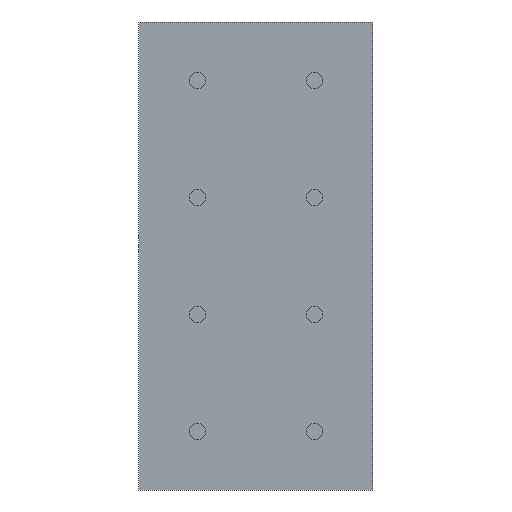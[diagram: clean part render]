
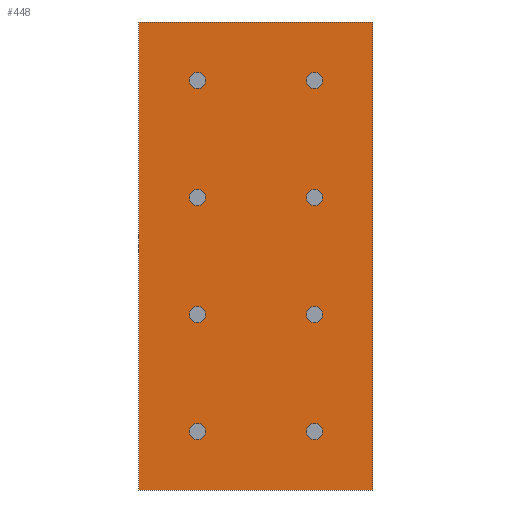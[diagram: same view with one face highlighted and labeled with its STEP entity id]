
A CAD part, front view. The second image highlights one B-rep face of the part: STEP entity #448.
In plain terms, the highlighted planar face has unit normal (0, -1, 0).
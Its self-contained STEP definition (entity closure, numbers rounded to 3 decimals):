
#1=CARTESIAN_POINT('',(22.5,0.,112.5));
#2=DIRECTION('',(0.,1.,0.));
#3=DIRECTION('',(-1.,0.,0.));
#4=AXIS2_PLACEMENT_3D('',#1,#2,#3);
#6=CARTESIAN_POINT('',(22.5,0.,112.5));
#7=DIRECTION('',(0.,1.,0.));
#8=DIRECTION('',(1.,0.,0.));
#9=AXIS2_PLACEMENT_3D('',#6,#7,#8);
#11=CARTESIAN_POINT('',(-22.5,0.,112.5));
#12=DIRECTION('',(0.,-1.,0.));
#13=DIRECTION('',(1.,0.,0.));
#14=AXIS2_PLACEMENT_3D('',#11,#12,#13);
#16=CARTESIAN_POINT('',(-22.5,0.,112.5));
#17=DIRECTION('',(0.,-1.,0.));
#18=DIRECTION('',(-1.,0.,0.));
#19=AXIS2_PLACEMENT_3D('',#16,#17,#18);
#21=CARTESIAN_POINT('',(-22.5,0.,67.5));
#22=DIRECTION('',(0.,1.,0.));
#23=DIRECTION('',(1.,0.,0.));
#24=AXIS2_PLACEMENT_3D('',#21,#22,#23);
#26=CARTESIAN_POINT('',(-22.5,0.,67.5));
#27=DIRECTION('',(0.,1.,0.));
#28=DIRECTION('',(-1.,0.,0.));
#29=AXIS2_PLACEMENT_3D('',#26,#27,#28);
#31=CARTESIAN_POINT('',(22.5,0.,67.5));
#32=DIRECTION('',(0.,-1.,0.));
#33=DIRECTION('',(-1.,0.,0.));
#34=AXIS2_PLACEMENT_3D('',#31,#32,#33);
#36=CARTESIAN_POINT('',(22.5,0.,67.5));
#37=DIRECTION('',(0.,-1.,0.));
#38=DIRECTION('',(1.,0.,0.));
#39=AXIS2_PLACEMENT_3D('',#36,#37,#38);
#41=CARTESIAN_POINT('',(22.5,0.,22.5));
#42=DIRECTION('',(0.,1.,0.));
#43=DIRECTION('',(-1.,0.,0.));
#44=AXIS2_PLACEMENT_3D('',#41,#42,#43);
#46=CARTESIAN_POINT('',(22.5,0.,22.5));
#47=DIRECTION('',(0.,1.,0.));
#48=DIRECTION('',(1.,0.,0.));
#49=AXIS2_PLACEMENT_3D('',#46,#47,#48);
#51=CARTESIAN_POINT('',(-22.5,0.,22.5));
#52=DIRECTION('',(0.,-1.,0.));
#53=DIRECTION('',(1.,0.,0.));
#54=AXIS2_PLACEMENT_3D('',#51,#52,#53);
#56=CARTESIAN_POINT('',(-22.5,0.,22.5));
#57=DIRECTION('',(0.,-1.,0.));
#58=DIRECTION('',(-1.,0.,0.));
#59=AXIS2_PLACEMENT_3D('',#56,#57,#58);
#61=CARTESIAN_POINT('',(-22.5,0.,-22.5));
#62=DIRECTION('',(0.,1.,0.));
#63=DIRECTION('',(1.,0.,0.));
#64=AXIS2_PLACEMENT_3D('',#61,#62,#63);
#66=CARTESIAN_POINT('',(-22.5,0.,-22.5));
#67=DIRECTION('',(0.,1.,0.));
#68=DIRECTION('',(-1.,0.,0.));
#69=AXIS2_PLACEMENT_3D('',#66,#67,#68);
#71=CARTESIAN_POINT('',(22.5,0.,-22.5));
#72=DIRECTION('',(0.,-1.,0.));
#73=DIRECTION('',(-1.,0.,0.));
#74=AXIS2_PLACEMENT_3D('',#71,#72,#73);
#76=CARTESIAN_POINT('',(22.5,0.,-22.5));
#77=DIRECTION('',(0.,-1.,0.));
#78=DIRECTION('',(1.,0.,0.));
#79=AXIS2_PLACEMENT_3D('',#76,#77,#78);
#229=DIRECTION('',(-1.,0.,0.));
#230=VECTOR('',#229,90.);
#231=CARTESIAN_POINT('',(45.,0.,135.));
#232=LINE('',#231,#230);
#249=DIRECTION('',(0.,0.,-1.));
#250=VECTOR('',#249,180.);
#251=CARTESIAN_POINT('',(-45.,0.,135.));
#252=LINE('',#251,#250);
#265=DIRECTION('',(1.,0.,0.));
#266=VECTOR('',#265,90.);
#267=CARTESIAN_POINT('',(-45.,0.,-45.));
#268=LINE('',#267,#266);
#289=DIRECTION('',(0.,0.,1.));
#290=VECTOR('',#289,180.);
#291=CARTESIAN_POINT('',(45.,0.,-45.));
#292=LINE('',#291,#290);
#309=CARTESIAN_POINT('',(19.4,0.,-22.5));
#310=CARTESIAN_POINT('',(25.6,0.,-22.5));
#311=VERTEX_POINT('',#309);
#312=VERTEX_POINT('',#310);
#317=CARTESIAN_POINT('',(-19.4,0.,-22.5));
#318=CARTESIAN_POINT('',(-25.6,0.,-22.5));
#319=VERTEX_POINT('',#317);
#320=VERTEX_POINT('',#318);
#325=CARTESIAN_POINT('',(19.4,0.,22.5));
#326=CARTESIAN_POINT('',(25.6,0.,22.5));
#327=VERTEX_POINT('',#325);
#328=VERTEX_POINT('',#326);
#333=CARTESIAN_POINT('',(-19.4,0.,22.5));
#334=CARTESIAN_POINT('',(-25.6,0.,22.5));
#335=VERTEX_POINT('',#333);
#336=VERTEX_POINT('',#334);
#341=CARTESIAN_POINT('',(19.4,0.,112.5));
#342=CARTESIAN_POINT('',(25.6,0.,112.5));
#343=VERTEX_POINT('',#341);
#344=VERTEX_POINT('',#342);
#349=CARTESIAN_POINT('',(-19.4,0.,112.5));
#350=CARTESIAN_POINT('',(-25.6,0.,112.5));
#351=VERTEX_POINT('',#349);
#352=VERTEX_POINT('',#350);
#357=CARTESIAN_POINT('',(19.4,0.,67.5));
#358=CARTESIAN_POINT('',(25.6,0.,67.5));
#359=VERTEX_POINT('',#357);
#360=VERTEX_POINT('',#358);
#365=CARTESIAN_POINT('',(-19.4,0.,67.5));
#366=CARTESIAN_POINT('',(-25.6,0.,67.5));
#367=VERTEX_POINT('',#365);
#368=VERTEX_POINT('',#366);
#373=CARTESIAN_POINT('',(45.,0.,135.));
#374=CARTESIAN_POINT('',(-45.,0.,135.));
#375=VERTEX_POINT('',#373);
#376=VERTEX_POINT('',#374);
#379=CARTESIAN_POINT('',(-45.,0.,-45.));
#380=VERTEX_POINT('',#379);
#381=CARTESIAN_POINT('',(45.,0.,-45.));
#382=VERTEX_POINT('',#381);
#385=CARTESIAN_POINT('',(0.,0.,0.));
#386=DIRECTION('',(0.,1.,0.));
#387=DIRECTION('',(1.,0.,0.));
#388=AXIS2_PLACEMENT_3D('',#385,#386,#387);
#389=PLANE('',#388);
#391=ORIENTED_EDGE('',*,*,#390,.F.);
#393=ORIENTED_EDGE('',*,*,#392,.F.);
#395=ORIENTED_EDGE('',*,*,#394,.F.);
#397=ORIENTED_EDGE('',*,*,#396,.F.);
#398=EDGE_LOOP('',(#391,#393,#395,#397));
#399=FACE_OUTER_BOUND('',#398,.F.);
#401=ORIENTED_EDGE('',*,*,#400,.F.);
#403=ORIENTED_EDGE('',*,*,#402,.F.);
#404=EDGE_LOOP('',(#401,#403));
#405=FACE_BOUND('',#404,.F.);
#407=ORIENTED_EDGE('',*,*,#406,.T.);
#409=ORIENTED_EDGE('',*,*,#408,.T.);
#410=EDGE_LOOP('',(#407,#409));
#411=FACE_BOUND('',#410,.F.);
#413=ORIENTED_EDGE('',*,*,#412,.F.);
#415=ORIENTED_EDGE('',*,*,#414,.F.);
#416=EDGE_LOOP('',(#413,#415));
#417=FACE_BOUND('',#416,.F.);
#419=ORIENTED_EDGE('',*,*,#418,.T.);
#421=ORIENTED_EDGE('',*,*,#420,.T.);
#422=EDGE_LOOP('',(#419,#421));
#423=FACE_BOUND('',#422,.F.);
#425=ORIENTED_EDGE('',*,*,#424,.F.);
#427=ORIENTED_EDGE('',*,*,#426,.F.);
#428=EDGE_LOOP('',(#425,#427));
#429=FACE_BOUND('',#428,.F.);
#431=ORIENTED_EDGE('',*,*,#430,.T.);
#433=ORIENTED_EDGE('',*,*,#432,.T.);
#434=EDGE_LOOP('',(#431,#433));
#435=FACE_BOUND('',#434,.F.);
#437=ORIENTED_EDGE('',*,*,#436,.F.);
#439=ORIENTED_EDGE('',*,*,#438,.F.);
#440=EDGE_LOOP('',(#437,#439));
#441=FACE_BOUND('',#440,.F.);
#443=ORIENTED_EDGE('',*,*,#442,.T.);
#445=ORIENTED_EDGE('',*,*,#444,.T.);
#446=EDGE_LOOP('',(#443,#445));
#447=FACE_BOUND('',#446,.F.);
#448=ADVANCED_FACE('',(#399,#405,#411,#417,#423,#429,#435,#441,#447),#389,.F.);
#5=CIRCLE('',#4,3.1);
#10=CIRCLE('',#9,3.1);
#15=CIRCLE('',#14,3.1);
#20=CIRCLE('',#19,3.1);
#25=CIRCLE('',#24,3.1);
#30=CIRCLE('',#29,3.1);
#35=CIRCLE('',#34,3.1);
#40=CIRCLE('',#39,3.1);
#45=CIRCLE('',#44,3.1);
#50=CIRCLE('',#49,3.1);
#55=CIRCLE('',#54,3.1);
#60=CIRCLE('',#59,3.1);
#65=CIRCLE('',#64,3.1);
#70=CIRCLE('',#69,3.1);
#75=CIRCLE('',#74,3.1);
#80=CIRCLE('',#79,3.1);
#390=EDGE_CURVE('',#375,#376,#232,.T.);
#392=EDGE_CURVE('',#382,#375,#292,.T.);
#394=EDGE_CURVE('',#380,#382,#268,.T.);
#396=EDGE_CURVE('',#376,#380,#252,.T.);
#400=EDGE_CURVE('',#343,#344,#5,.T.);
#402=EDGE_CURVE('',#344,#343,#10,.T.);
#406=EDGE_CURVE('',#351,#352,#15,.T.);
#408=EDGE_CURVE('',#352,#351,#20,.T.);
#412=EDGE_CURVE('',#367,#368,#25,.T.);
#414=EDGE_CURVE('',#368,#367,#30,.T.);
#418=EDGE_CURVE('',#359,#360,#35,.T.);
#420=EDGE_CURVE('',#360,#359,#40,.T.);
#424=EDGE_CURVE('',#327,#328,#45,.T.);
#426=EDGE_CURVE('',#328,#327,#50,.T.);
#430=EDGE_CURVE('',#335,#336,#55,.T.);
#432=EDGE_CURVE('',#336,#335,#60,.T.);
#436=EDGE_CURVE('',#319,#320,#65,.T.);
#438=EDGE_CURVE('',#320,#319,#70,.T.);
#442=EDGE_CURVE('',#311,#312,#75,.T.);
#444=EDGE_CURVE('',#312,#311,#80,.T.);
